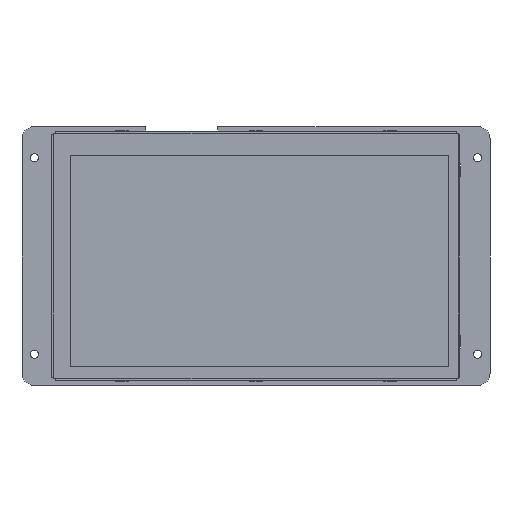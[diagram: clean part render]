
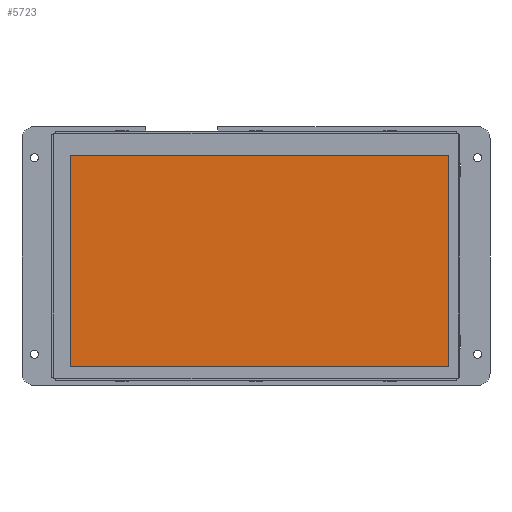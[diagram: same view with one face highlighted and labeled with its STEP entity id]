
A CAD part, front view. The second image highlights one B-rep face of the part: STEP entity #5723.
In plain terms, the highlighted planar face has unit normal (0, -1, 0) as drawn and (0, 1, 0) by its records, which use the part's own axes.
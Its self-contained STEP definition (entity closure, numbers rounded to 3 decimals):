
#5514=DIRECTION('',(0.,0.,1.));
#5515=VECTOR('',#5514,85.92);
#5516=CARTESIAN_POINT('',(-78.53,1.68,-45.22));
#5517=LINE('',#5516,#5515);
#5518=DIRECTION('',(-1.,0.,0.));
#5519=VECTOR('',#5518,154.08);
#5520=CARTESIAN_POINT('',(75.55,1.68,-45.22));
#5521=LINE('',#5520,#5519);
#5522=DIRECTION('',(0.,0.,-1.));
#5523=VECTOR('',#5522,85.92);
#5524=CARTESIAN_POINT('',(75.55,1.68,40.7));
#5525=LINE('',#5524,#5523);
#5526=DIRECTION('',(1.,0.,0.));
#5527=VECTOR('',#5526,154.08);
#5528=CARTESIAN_POINT('',(-78.53,1.68,40.7));
#5529=LINE('',#5528,#5527);
#5546=CARTESIAN_POINT('',(-78.53,1.68,-45.22));
#5547=CARTESIAN_POINT('',(-78.53,1.68,40.7));
#5548=VERTEX_POINT('',#5546);
#5549=VERTEX_POINT('',#5547);
#5550=CARTESIAN_POINT('',(75.55,1.68,40.7));
#5551=VERTEX_POINT('',#5550);
#5552=CARTESIAN_POINT('',(75.55,1.68,-45.22));
#5553=VERTEX_POINT('',#5552);
#5712=CARTESIAN_POINT('',(0.,1.68,0.));
#5713=DIRECTION('',(0.,1.,0.));
#5714=DIRECTION('',(1.,0.,0.));
#5715=AXIS2_PLACEMENT_3D('',#5712,#5713,#5714);
#5716=PLANE('',#5715);
#5717=ORIENTED_EDGE('',*,*,#5664,.F.);
#5718=ORIENTED_EDGE('',*,*,#5679,.F.);
#5719=ORIENTED_EDGE('',*,*,#5693,.F.);
#5720=ORIENTED_EDGE('',*,*,#5706,.F.);
#5721=EDGE_LOOP('',(#5717,#5718,#5719,#5720));
#5722=FACE_OUTER_BOUND('',#5721,.F.);
#5664=EDGE_CURVE('',#5548,#5549,#5517,.T.);
#5679=EDGE_CURVE('',#5553,#5548,#5521,.T.);
#5693=EDGE_CURVE('',#5551,#5553,#5525,.T.);
#5706=EDGE_CURVE('',#5549,#5551,#5529,.T.);
#5723=ADVANCED_FACE('',(#5722),#5716,.T.);
